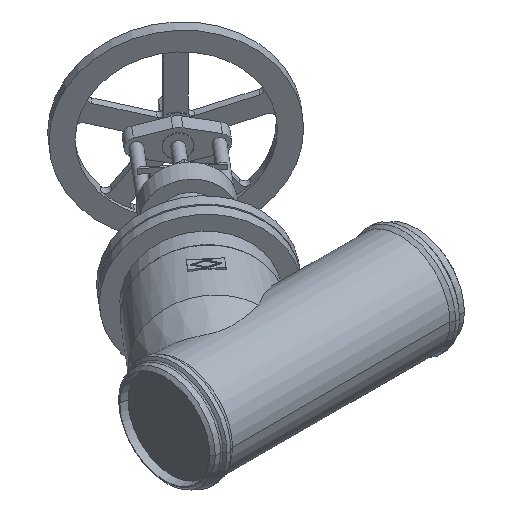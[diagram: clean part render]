
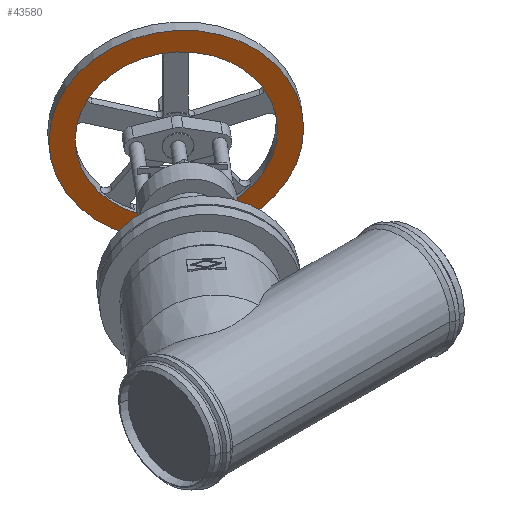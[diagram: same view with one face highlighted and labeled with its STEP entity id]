
A CAD part, isometric view. The second image highlights one B-rep face of the part: STEP entity #43580.
In plain terms, the highlighted planar face has unit normal (-0.643, -0.766, 0).
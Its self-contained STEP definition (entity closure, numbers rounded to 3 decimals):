
#42090=CARTESIAN_POINT('',(907.745,582.98,
0.));
#42100=VERTEX_POINT('',#42090);
#43190=CARTESIAN_POINT('',(591.368,848.451,
0.));
#43200=VERTEX_POINT('',#43190);
#43230=CARTESIAN_POINT('',(749.556,715.715,0.));
#43240=DIRECTION('',(0.643,0.766,
0.));
#43250=DIRECTION('',(-0.766,0.643,
0.));
#43260=AXIS2_PLACEMENT_3D('',#43230,#43240,#43250);
#43270=CIRCLE('',#43260,206.5);
#43280=EDGE_CURVE('',#43200,#42100,#43270,.T.);
#43330=CARTESIAN_POINT('',(570.877,865.646,
0.));
#43340=DIRECTION('',(-0.643,-0.766,0.));
#43350=DIRECTION('',(0.766,-0.643,
0.));
#43360=AXIS2_PLACEMENT_3D('',#43330,#43340,#43350);
#43370=PLANE('',#43360);
#43380=CARTESIAN_POINT('',(749.556,715.715,0.));
#43390=DIRECTION('',(0.643,0.766,
0.));
#43400=DIRECTION('',(-0.766,0.643,
0.));
#43410=AXIS2_PLACEMENT_3D('',#43380,#43390,#43400);
#43420=CIRCLE('',#43410,260.);
#43430=CARTESIAN_POINT('',(550.385,882.84,
0.));
#43440=VERTEX_POINT('',#43430);
#43450=CARTESIAN_POINT('',(948.728,548.591,
0.));
#43460=VERTEX_POINT('',#43450);
#43470=EDGE_CURVE('',#43440,#43460,#43420,.T.);
#43480=ORIENTED_EDGE('',*,*,#43470,.F.);
#43490=EDGE_CURVE('',#43460,#43440,#43420,.T.);
#43500=ORIENTED_EDGE('',*,*,#43490,.F.);
#43510=EDGE_LOOP('',(#43500,#43480));
#43520=FACE_OUTER_BOUND('',#43510,.T.);
#43530=EDGE_CURVE('',#42100,#43200,#43270,.T.);
#43540=ORIENTED_EDGE('',*,*,#43530,.T.);
#43550=ORIENTED_EDGE('',*,*,#43280,.T.);
#43560=EDGE_LOOP('',(#43550,#43540));
#43570=FACE_BOUND('',#43560,.T.);
#43580=ADVANCED_FACE('',(#43520,#43570),#43370,.T.);
